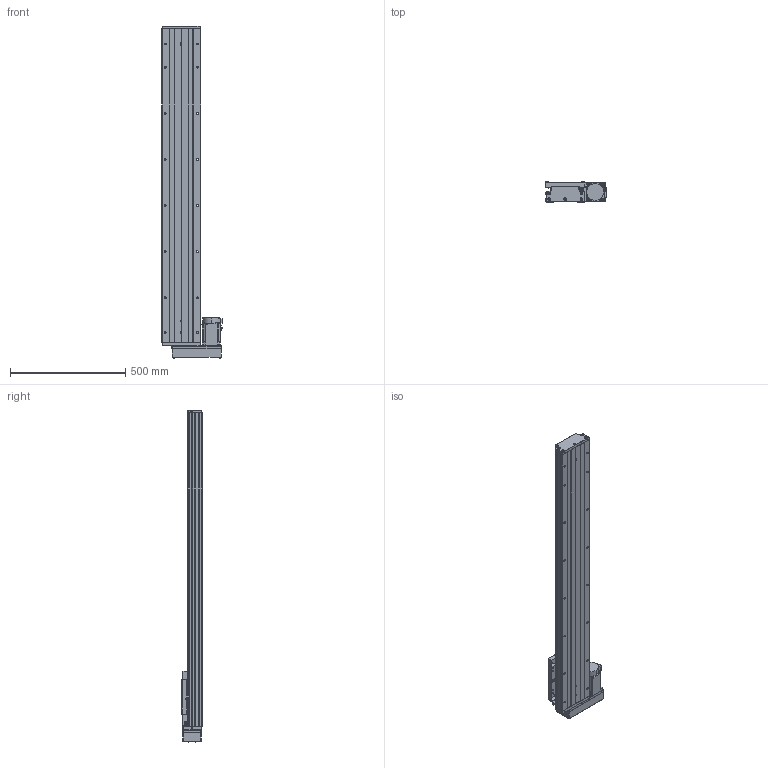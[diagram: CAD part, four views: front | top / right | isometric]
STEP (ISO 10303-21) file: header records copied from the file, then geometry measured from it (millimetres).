
FILE_DESCRIPTION (( 'STEP AP203' ), '1' );
FILE_NAME ('GTH17-1100-BR-M75-C4.step', '2023-06-30T13:17:02', ( '微软用户' ), ( '微软中国' ), 'SwSTEP 2.0', 'SolidWorks 2020', '' );
FILE_SCHEMA (( 'CONFIG_CONTROL_DESIGN' ));
Length unit declared in the file: millimetre
Products named in the file (19): GBT77-2000 M3×3; GTH17-005; GBT 70.1-M6¡Á20_M6¡Á20; GB1155-6X6; GTH17-031; GBT 70.2-M4¡Á45_M4¡Á35; CTHA60-017; GBT 70.2-M3¡Á5_M3¡Á6; GTH17-015-2_CTHA86-015-2; EE_SX911P_R; す晦芛蹟隊 M3℅5; GTH17-033; GTH17-001_1100; CTHA60-016; HG-KN73J-S100; GTH17-1100-BR-M75-C4; GTH17-002_GTH17-002; GBT 70.1-M3℅5; GTH17-004
Assembly tree (58 placements, depth 2):
  GTH17-1100-BR-M75-C4
    GTH17-001_1100
    GTH17-002_GTH17-002
    GTH17-004
    GTH17-005
    GB1155-6X6  x2
    CTHA60-017  x3
    EE_SX911P_R  x3
    CTHA60-016  x2
    GBT 70.1-M3℅5  x6
    GBT77-2000 M3×3  x6
    GBT 70.1-M6¡Á20_M6¡Á20  x10
    GTH17-031
    GBT 70.2-M3¡Á5_M3¡Á6  x8
    す晦芛蹟隊 M3℅5  x6
    HG-KN73J-S100
    GBT 70.2-M4¡Á45_M4¡Á35  x4
    GTH17-015-2_CTHA86-015-2
    GTH17-033
Bounding box: 264.3 x 87 x 1438.2 mm (x, y, z)
Volume: 11658425.2 mm3; surface area: 1544236.9 mm2
Topology: 61 solids, 61 shells, 2469 faces, 5893 edges, 3651 vertices
Faces by surface type: plane 1314, cylinder 682, cone 297, torus 124, sphere 32, bspline 20
Entity records: 45354 total; most frequent: CARTESIAN_POINT 10466, DIRECTION 6601, ORIENTED_EDGE 6498, EDGE_CURVE 3249, AXIS2_PLACEMENT_3D 2264, LINE 2073, VECTOR 2073, VERTEX_POINT 2063
